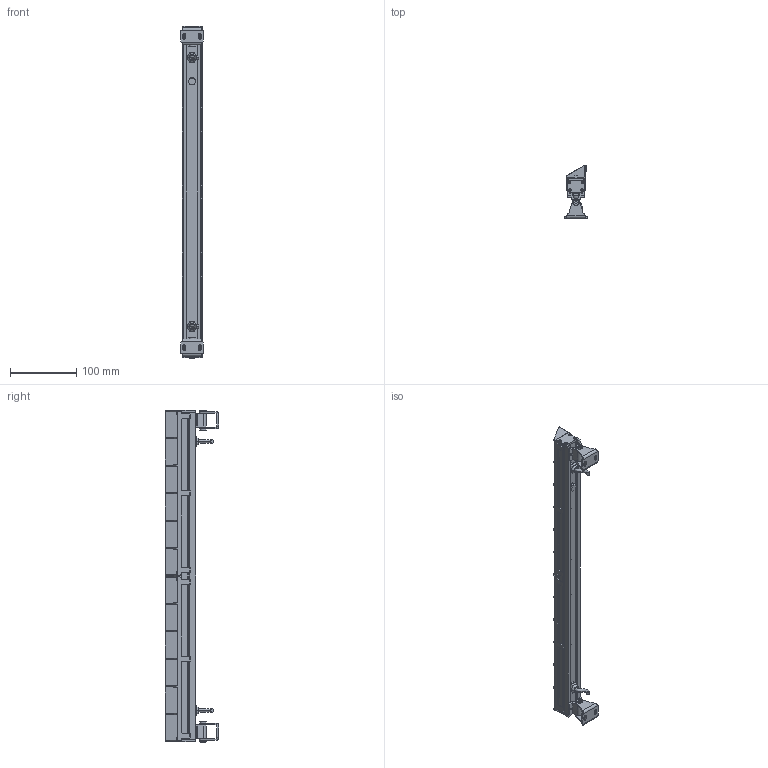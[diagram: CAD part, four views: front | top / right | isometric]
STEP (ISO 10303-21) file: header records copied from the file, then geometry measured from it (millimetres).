
FILE_DESCRIPTION((''),'2;1');
FILE_NAME('B6JD1256_ASM','2023-02-04T',('Administrator'),(''),'CREO PARAMETRIC BY PTC INC, 2015200','CREO PARAMETRIC BY PTC INC, 2015200','');
FILE_SCHEMA(('CONFIG_CONTROL_DESIGN'));
Length unit declared in the file: millimetre
Products named in the file (16): 6JB-12; 6JB-LJB; 6J-DP; 6J_ZYG_81_20; 6JB-Z; 6J_A_3D_2018_6_27_; PG7_CU_23_2; PAIQIHUA_1_1_3_1_1; M2-5; M3X6-YT_2; SHANGZHIJIA-6J_2; XIAZHIJIA-6J-GAOYA-01_2; M6_BIAN_TOU_TE_ZHI_5_ANY_2; M3WUTOU_2; XINZHIJIA-6J-GAOYA-01_ASM_2_ASM; B6JD1256_ASM
Assembly tree (35 placements, depth 3):
  B6JD1256_ASM
    6JB-12
    6JB-LJB  x2
    6J-DP  x2
    6J_ZYG_81_20  x2
    6JB-Z
    6J_A_3D_2018_6_27_  x2
    PG7_CU_23_2  x2
    PAIQIHUA_1_1_3_1_1
    M2-5  x8
    M3X6-YT_2  x6
    XINZHIJIA-6J-GAOYA-01_ASM_2_ASM  x2
      SHANGZHIJIA-6J_2
      XIAZHIJIA-6J-GAOYA-01_2
      M6_BIAN_TOU_TE_ZHI_5_ANY_2
      M3WUTOU_2
Bounding box: 34 x 80.3 x 501.2 mm (x, y, z)
Volume: 233205.6 mm3; surface area: 217189.4 mm2
Topology: 39 solids, 39 shells, 2543 faces, 6368 edges, 3920 vertices
Faces by surface type: plane 1409, cylinder 628, cone 412, bspline 60, torus 16, sphere 12, revolution 4, extrusion 2
Entity records: 34451 total; most frequent: CARTESIAN_POINT 9239, ORIENTED_EDGE 5212, DIRECTION 5073, EDGE_CURVE 2606, VECTOR 1863, LINE 1862, VERTEX_POINT 1691, AXIS2_PLACEMENT_3D 1604
